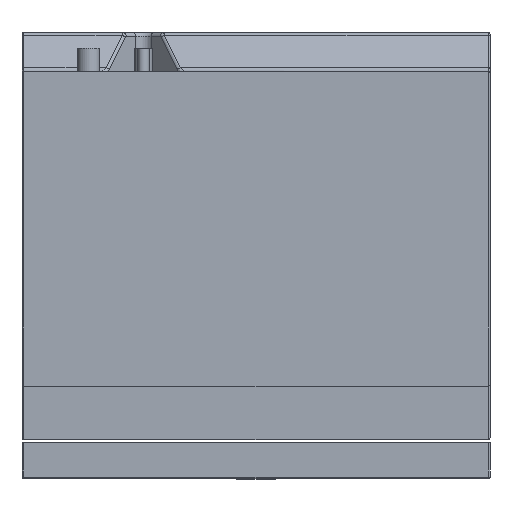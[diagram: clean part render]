
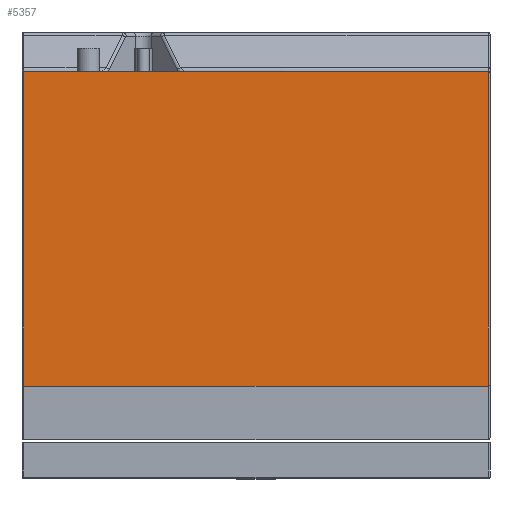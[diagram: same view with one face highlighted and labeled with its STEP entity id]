
A CAD part, front view. The second image highlights one B-rep face of the part: STEP entity #5357.
In plain terms, the highlighted planar face has unit normal (0, -1, 0).
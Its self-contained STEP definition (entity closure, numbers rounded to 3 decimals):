
#743 = DIRECTION ( 'NONE',  ( 0., 0., -1. ) ) ;
#2140 = LINE ( 'NONE', #10509, #12163 ) ;
#2301 = CARTESIAN_POINT ( 'NONE',  ( 299., 0., -401.7 ) ) ;
#2305 = ORIENTED_EDGE ( 'NONE', *, *, #13371, .T. ) ;
#2406 = VECTOR ( 'NONE', #743, 1000. ) ;
#2970 = ORIENTED_EDGE ( 'NONE', *, *, #12376, .T. ) ;
#3546 = EDGE_LOOP ( 'NONE', ( #9140, #2305, #14286, #2970 ) ) ;
#3591 = AXIS2_PLACEMENT_3D ( 'NONE', #6071, #5660, #15066 ) ;
#3730 = DIRECTION ( 'NONE',  ( 0., 0., 1. ) ) ;
#4306 = VECTOR ( 'NONE', #10306, 1000. ) ;
#5228 = CARTESIAN_POINT ( 'NONE',  ( 297., 0., 0. ) ) ;
#5357 = ADVANCED_FACE ( 'NONE', ( #5988 ), #11019, .F. ) ;
#5660 = DIRECTION ( 'NONE',  ( 0., 1., 0. ) ) ;
#5988 = FACE_OUTER_BOUND ( 'NONE', #3546, .T. ) ;
#6071 = CARTESIAN_POINT ( 'NONE',  ( 299., 0., 0. ) ) ;
#6088 = VERTEX_POINT ( 'NONE', #14571 ) ;
#7086 = EDGE_CURVE ( 'NONE', #11480, #8838, #9861, .T. ) ;
#7249 = VECTOR ( 'NONE', #8538, 1000. ) ;
#8538 = DIRECTION ( 'NONE',  ( -1., 0., 0. ) ) ;
#8761 = CARTESIAN_POINT ( 'NONE',  ( 297., 0., -401.7 ) ) ;
#8838 = VERTEX_POINT ( 'NONE', #15181 ) ;
#9028 = LINE ( 'NONE', #14387, #2406 ) ;
#9140 = ORIENTED_EDGE ( 'NONE', *, *, #7086, .T. ) ;
#9861 = LINE ( 'NONE', #15308, #7249 ) ;
#10306 = DIRECTION ( 'NONE',  ( -1., 0., 0. ) ) ;
#10509 = CARTESIAN_POINT ( 'NONE',  ( 297., 0., 0. ) ) ;
#11019 = PLANE ( 'NONE',  #3591 ) ;
#11480 = VERTEX_POINT ( 'NONE', #5228 ) ;
#12163 = VECTOR ( 'NONE', #3730, 1000. ) ;
#12376 = EDGE_CURVE ( 'NONE', #17397, #11480, #2140, .T. ) ;
#12694 = EDGE_CURVE ( 'NONE', #17397, #6088, #15230, .T. ) ;
#13371 = EDGE_CURVE ( 'NONE', #8838, #6088, #9028, .T. ) ;
#14286 = ORIENTED_EDGE ( 'NONE', *, *, #12694, .F. ) ;
#14387 = CARTESIAN_POINT ( 'NONE',  ( -297., 0., 0. ) ) ;
#14571 = CARTESIAN_POINT ( 'NONE',  ( -297., 0., -401.7 ) ) ;
#15066 = DIRECTION ( 'NONE',  ( 0., 0., 1. ) ) ;
#15181 = CARTESIAN_POINT ( 'NONE',  ( -297., 0., 0. ) ) ;
#15230 = LINE ( 'NONE', #2301, #4306 ) ;
#15308 = CARTESIAN_POINT ( 'NONE',  ( 299., 0., 0. ) ) ;
#17397 = VERTEX_POINT ( 'NONE', #8761 ) ;
